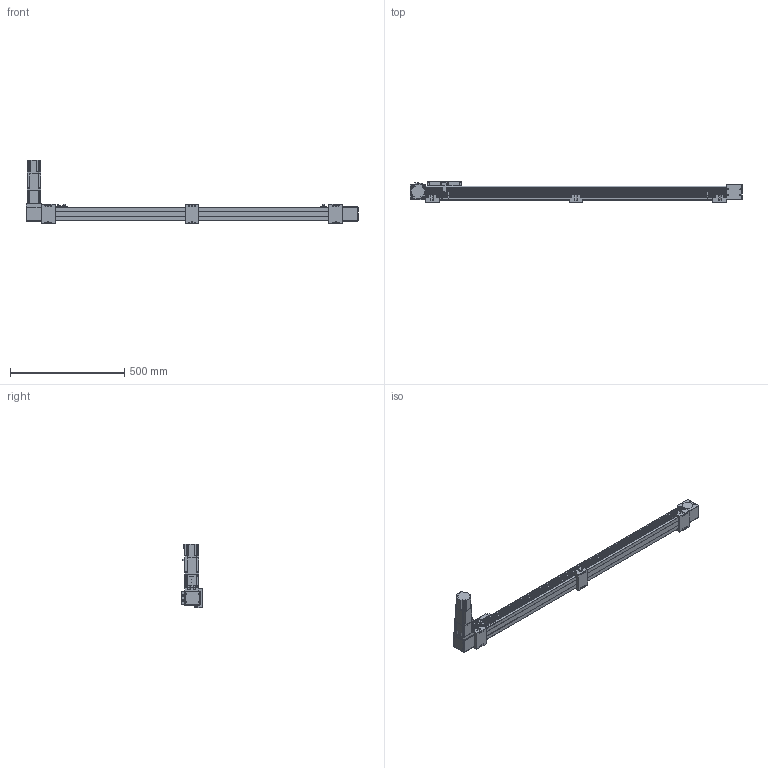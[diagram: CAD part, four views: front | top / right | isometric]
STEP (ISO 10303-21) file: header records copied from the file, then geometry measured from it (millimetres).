
FILE_DESCRIPTION(/* description */ ('STEP AP203'),/* implementation_level */ '2;1');
FILE_NAME(/* name */ 'SK60-P13-S1150-BL-T40-C1-N(0)',/* time_stamp */ '2023-04-06T03:36:44+02:00',/* author */ ('License CC BY-ND 4.0'),/* organization */ ('CADENAS'),/* preprocessor_version */ 'ST-DEVELOPER v19.3',/* originating_system */ 'PARTsolutions',/* authorisation */ ' ');
FILE_SCHEMA (('CONFIG_CONTROL_DESIGN'));
Length unit declared in the file: millimetre
Products named in the file (11): SK60-P13-S1150-BL-T40-C1-N(0); PSC140-sensor; SK60-S450_seat; SK60-S450-BL-C1_slider; SK60_body3; SK60_body6; SK60-BL_body2; T40-p1; SK60_body5; SK60_body4; SK60-S1150-BL-C1_body
Assembly tree (18 placements, depth 2):
  SK60-P13-S1150-BL-T40-C1-N(0)
    PSC140-sensor  x3
    SK60-S450_seat  x3
    SK60-S450-BL-C1_slider
    SK60_body3  x3
    SK60_body6  x2
    SK60-BL_body2  x2
    T40-p1
    SK60_body5
    SK60_body4
    SK60-S1150-BL-C1_body
Bounding box: 1450 x 90 x 278.2 mm (x, y, z)
Volume: 5546376.2 mm3; surface area: 737723.1 mm2
Topology: 18 solids, 22 shells, 878 faces, 2207 edges, 1458 vertices
Faces by surface type: plane 568, cylinder 282, cone 26, torus 2
Full cylindrical faces by diameter (mm): 2.8 x3, 3.3 x4, 4.2 x8, 4.5 x26, 4.6 x3, 4.917 x20, 5 x2, 5.478 x4, 5.5 x23, 6.5 x6, 8 x4, 8.5 x4, 9.988 x4, 10 x12, 13.556 x1, 14 x1, 14.586 x1, 19.692 x1, 38.432 x2, 43 x1, 44 x3, 47 x2, 50 x2
Entity records: 19379 total; most frequent: DIRECTION 3294, CARTESIAN_POINT 3290, ORIENTED_EDGE 3050, EDGE_CURVE 1525, AXIS2_PLACEMENT_3D 1101, LINE 1092, VECTOR 1092, VERTEX_POINT 1077
